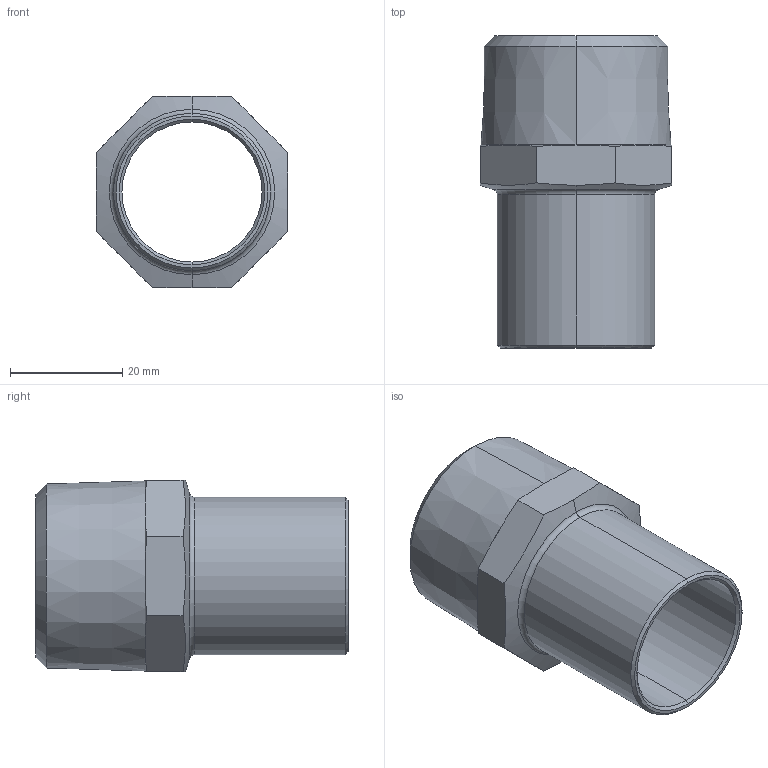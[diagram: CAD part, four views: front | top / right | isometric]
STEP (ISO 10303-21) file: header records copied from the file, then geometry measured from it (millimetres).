
FILE_DESCRIPTION (( 'STEP AP203' ), '1' );
FILE_NAME ('SP4280G Ø28 1.STEP', '2017-04-26T09:08:23', ( '' ), ( '' ), 'SwSTEP 2.0', 'SolidWorks 2016', '' );
FILE_SCHEMA (( 'CONFIG_CONTROL_DESIGN' ));
Length unit declared in the file: millimetre
Products named in the file (1): SP4280G ﾘ28 1
Bounding box: 34 x 55.5 x 34 mm (x, y, z)
Volume: 13329.1 mm3; surface area: 10370.5 mm2
Topology: 1 solids, 1 shells, 34 faces, 78 edges, 46 vertices
Faces by surface type: cone 16, plane 10, cylinder 6, torus 2
Entity records: 1079 total; most frequent: CARTESIAN_POINT 251, DIRECTION 156, ORIENTED_EDGE 156, EDGE_CURVE 78, AXIS2_PLACEMENT_3D 63, VERTEX_POINT 46, EDGE_LOOP 36, ADVANCED_FACE 34
